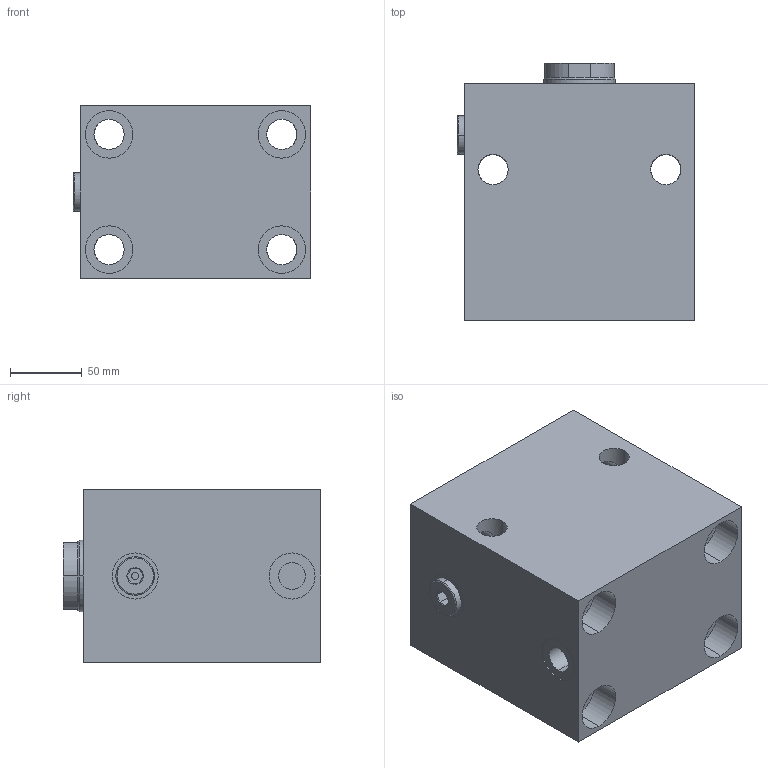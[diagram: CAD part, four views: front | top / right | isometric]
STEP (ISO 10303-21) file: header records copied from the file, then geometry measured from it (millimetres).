
FILE_DESCRIPTION (( 'STEP AP203' ), '1' );
FILE_NAME ('GERMA_Blockzylinder_650-080-032.STEP', '2023-08-26T17:48:17', ( '' ), ( '' ), 'SwSTEP 2.0', 'SolidWorks 2016', '' );
FILE_SCHEMA (( 'CONFIG_CONTROL_DESIGN' ));
Length unit declared in the file: millimetre
Products named in the file (3): Kolben 60x-080_Kolben DU.80-Hub80-IG; GH-600-080-ew_GH-650-080-032; GERMA_Blockzylinder_650-080-032
Assembly tree (2 placements, depth 2):
  GERMA_Blockzylinder_650-080-032
    GH-600-080-ew_GH-650-080-032
    Kolben 60x-080_Kolben DU.80-Hub80-IG
Bounding box: 164.8 x 179 x 120 mm (x, y, z)
Volume: 2681942.8 mm3; surface area: 266042.4 mm2
Topology: 2 solids, 2 shells, 139 faces, 323 edges, 198 vertices
Faces by surface type: cylinder 77, plane 39, cone 21, torus 2
Entity records: 4317 total; most frequent: CARTESIAN_POINT 826, DIRECTION 710, ORIENTED_EDGE 634, EDGE_CURVE 317, AXIS2_PLACEMENT_3D 288, VERTEX_POINT 198, EDGE_LOOP 175, CIRCLE 144
